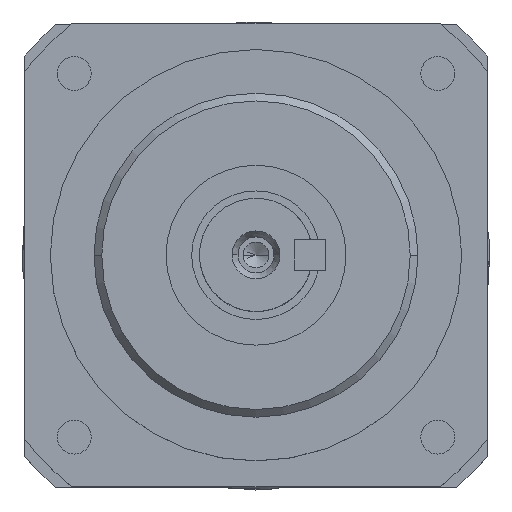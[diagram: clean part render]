
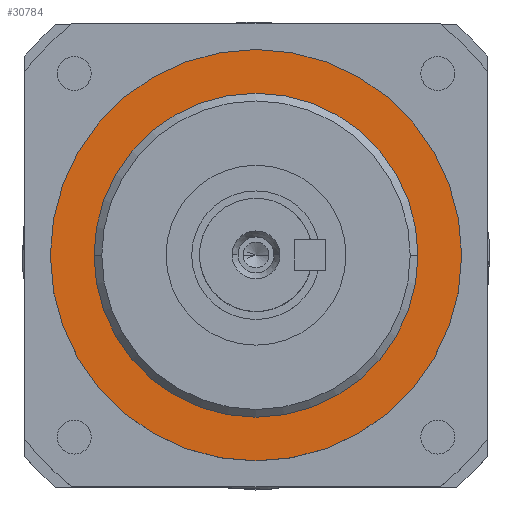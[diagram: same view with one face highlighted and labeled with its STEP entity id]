
A CAD part, top view. The second image highlights one B-rep face of the part: STEP entity #30784.
In plain terms, the highlighted planar face has unit normal (0, 0, 1).
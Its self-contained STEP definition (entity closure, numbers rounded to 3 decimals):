
#645 = CARTESIAN_POINT ( 'NONE',  ( 0., 31.5, -1.5 ) ) ;
#1288 = ORIENTED_EDGE ( 'NONE', *, *, #34247, .F. ) ;
#2103 = AXIS2_PLACEMENT_3D ( 'NONE', #37789, #16804, #41291 ) ;
#3233 = CIRCLE ( 'NONE', #2103, 40. ) ;
#6256 = AXIS2_PLACEMENT_3D ( 'NONE', #41172, #20203, #44717 ) ;
#6985 = CARTESIAN_POINT ( 'NONE',  ( 31.5, 0., -1.5 ) ) ;
#7409 = CARTESIAN_POINT ( 'NONE',  ( 0., 0., -1.5 ) ) ;
#10470 = CARTESIAN_POINT ( 'NONE',  ( -31.5, 0., -1.5 ) ) ;
#10924 = DIRECTION ( 'NONE',  ( 1., 0., 0. ) ) ;
#14685 = DIRECTION ( 'NONE',  ( 0., 0., -1. ) ) ;
#15555 = VERTEX_POINT ( 'NONE', #37073 ) ;
#16804 = DIRECTION ( 'NONE',  ( 0., 0., -1. ) ) ;
#20203 = DIRECTION ( 'NONE',  ( 0., 0., 1. ) ) ;
#20414 = CARTESIAN_POINT ( 'NONE',  ( 0., 0., -1.5 ) ) ;
#22381 = AXIS2_PLACEMENT_3D ( 'NONE', #20414, #44952, #23920 ) ;
#22587 = AXIS2_PLACEMENT_3D ( 'NONE', #7409, #31903, #10924 ) ;
#23920 = DIRECTION ( 'NONE',  ( -1., 0., 0. ) ) ;
#24146 = EDGE_LOOP ( 'NONE', ( #41110, #1288 ) ) ;
#25977 = VERTEX_POINT ( 'NONE', #30454 ) ;
#26773 = CIRCLE ( 'NONE', #22587, 40. ) ;
#27776 = ORIENTED_EDGE ( 'NONE', *, *, #30413, .F. ) ;
#28766 = VERTEX_POINT ( 'NONE', #6985 ) ;
#30413 = EDGE_CURVE ( 'NONE', #25977, #15555, #26773, .T. ) ;
#30454 = CARTESIAN_POINT ( 'NONE',  ( -40., 0., -1.5 ) ) ;
#30784 = ADVANCED_FACE ( 'NONE', ( #35547, #44868 ), #35704, .F. ) ;
#30969 = EDGE_CURVE ( 'NONE', #15555, #25977, #3233, .T. ) ;
#31903 = DIRECTION ( 'NONE',  ( 0., 0., -1. ) ) ;
#33230 = EDGE_CURVE ( 'NONE', #38139, #28766, #36551, .T. ) ;
#34247 = EDGE_CURVE ( 'NONE', #28766, #38139, #44137, .T. ) ;
#35133 = ORIENTED_EDGE ( 'NONE', *, *, #30969, .F. ) ;
#35547 = FACE_BOUND ( 'NONE', #24146, .T. ) ;
#35704 = PLANE ( 'NONE',  #35837 ) ;
#35837 = AXIS2_PLACEMENT_3D ( 'NONE', #645, #14685, #39185 ) ;
#36551 = CIRCLE ( 'NONE', #6256, 31.5 ) ;
#37073 = CARTESIAN_POINT ( 'NONE',  ( 40., 0., -1.5 ) ) ;
#37789 = CARTESIAN_POINT ( 'NONE',  ( 0., 0., -1.5 ) ) ;
#38139 = VERTEX_POINT ( 'NONE', #10470 ) ;
#38963 = EDGE_LOOP ( 'NONE', ( #35133, #27776 ) ) ;
#39185 = DIRECTION ( 'NONE',  ( -1., 0., 0. ) ) ;
#41110 = ORIENTED_EDGE ( 'NONE', *, *, #33230, .F. ) ;
#41172 = CARTESIAN_POINT ( 'NONE',  ( 0., 0., -1.5 ) ) ;
#41291 = DIRECTION ( 'NONE',  ( 1., 0., 0. ) ) ;
#44137 = CIRCLE ( 'NONE', #22381, 31.5 ) ;
#44717 = DIRECTION ( 'NONE',  ( -1., 0., 0. ) ) ;
#44868 = FACE_OUTER_BOUND ( 'NONE', #38963, .T. ) ;
#44952 = DIRECTION ( 'NONE',  ( 0., 0., 1. ) ) ;
